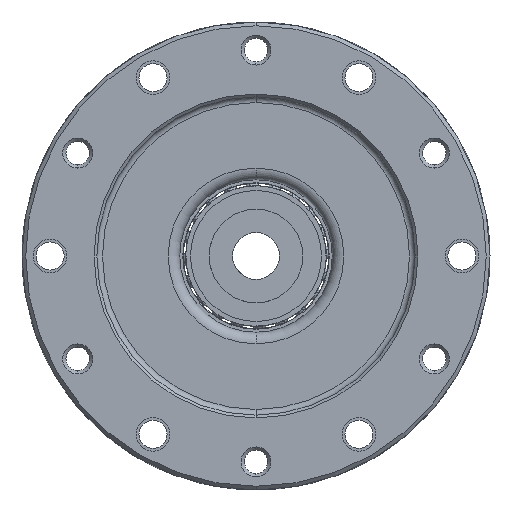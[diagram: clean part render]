
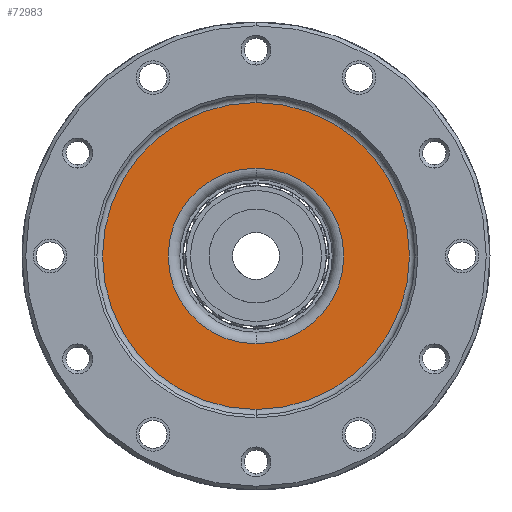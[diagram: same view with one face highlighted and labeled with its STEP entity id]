
A CAD part, left-side view. The second image highlights one B-rep face of the part: STEP entity #72983.
In plain terms, the highlighted planar face has unit normal (-1, 0, 0).
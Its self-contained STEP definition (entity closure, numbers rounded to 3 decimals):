
#7907 = AXIS2_PLACEMENT_3D ( 'NONE', #26229, #74577, #33149 ) ;
#10218 = EDGE_LOOP ( 'NONE', ( #37657, #69541 ) ) ;
#19826 = CIRCLE ( 'NONE', #85657, 4.69 ) ;
#20626 = CARTESIAN_POINT ( 'NONE',  ( -6.136, 0., -4.69 ) ) ;
#22684 = VERTEX_POINT ( 'NONE', #53899 ) ;
#26229 = CARTESIAN_POINT ( 'NONE',  ( -6.136, 0., 0. ) ) ;
#27284 = CARTESIAN_POINT ( 'NONE',  ( -6.136, 0., 0. ) ) ;
#30632 = DIRECTION ( 'NONE',  ( 1., 0., 0. ) ) ;
#31958 = VERTEX_POINT ( 'NONE', #20626 ) ;
#33149 = DIRECTION ( 'NONE',  ( 0., 0., -1. ) ) ;
#34206 = DIRECTION ( 'NONE',  ( 0., 0., -1. ) ) ;
#34296 = FACE_OUTER_BOUND ( 'NONE', #62825, .T. ) ;
#34621 = CARTESIAN_POINT ( 'NONE',  ( -6.136, 0., 8.2 ) ) ;
#35187 = CARTESIAN_POINT ( 'NONE',  ( -6.136, 0., 0. ) ) ;
#35899 = AXIS2_PLACEMENT_3D ( 'NONE', #27284, #75658, #34206 ) ;
#36155 = DIRECTION ( 'NONE',  ( 1., 0., 0. ) ) ;
#37657 = ORIENTED_EDGE ( 'NONE', *, *, #54044, .T. ) ;
#41421 = VERTEX_POINT ( 'NONE', #34621 ) ;
#42094 = DIRECTION ( 'NONE',  ( 0., 0., -1. ) ) ;
#43877 = AXIS2_PLACEMENT_3D ( 'NONE', #72013, #30632, #78979 ) ;
#45983 = CIRCLE ( 'NONE', #7907, 4.69 ) ;
#47565 = CIRCLE ( 'NONE', #35899, 8.2 ) ;
#48842 = ORIENTED_EDGE ( 'NONE', *, *, #84201, .F. ) ;
#50490 = FACE_BOUND ( 'NONE', #10218, .T. ) ;
#53899 = CARTESIAN_POINT ( 'NONE',  ( -6.136, 0., -8.2 ) ) ;
#54044 = EDGE_CURVE ( 'NONE', #31958, #68134, #19826, .T. ) ;
#60863 = CIRCLE ( 'NONE', #43877, 8.2 ) ;
#62825 = EDGE_LOOP ( 'NONE', ( #65980, #48842 ) ) ;
#63631 = CARTESIAN_POINT ( 'NONE',  ( -6.136, -4.69, 0. ) ) ;
#64118 = EDGE_CURVE ( 'NONE', #68134, #31958, #45983, .T. ) ;
#65980 = ORIENTED_EDGE ( 'NONE', *, *, #66780, .F. ) ;
#66780 = EDGE_CURVE ( 'NONE', #22684, #41421, #60863, .T. ) ;
#68134 = VERTEX_POINT ( 'NONE', #70820 ) ;
#69541 = ORIENTED_EDGE ( 'NONE', *, *, #64118, .T. ) ;
#70820 = CARTESIAN_POINT ( 'NONE',  ( -6.136, 0., 4.69 ) ) ;
#72013 = CARTESIAN_POINT ( 'NONE',  ( -6.136, 0., 0. ) ) ;
#72983 = ADVANCED_FACE ( 'NONE', ( #34296, #50490 ), #77587, .F. ) ;
#74577 = DIRECTION ( 'NONE',  ( 1., 0., 0. ) ) ;
#75658 = DIRECTION ( 'NONE',  ( 1., 0., 0. ) ) ;
#77587 = PLANE ( 'NONE',  #81319 ) ;
#78979 = DIRECTION ( 'NONE',  ( 0., 0., -1. ) ) ;
#81319 = AXIS2_PLACEMENT_3D ( 'NONE', #63631, #36155, #84537 ) ;
#83613 = DIRECTION ( 'NONE',  ( 1., 0., 0. ) ) ;
#84201 = EDGE_CURVE ( 'NONE', #41421, #22684, #47565, .T. ) ;
#84537 = DIRECTION ( 'NONE',  ( 0., 0., -1. ) ) ;
#85657 = AXIS2_PLACEMENT_3D ( 'NONE', #35187, #83613, #42094 ) ;
